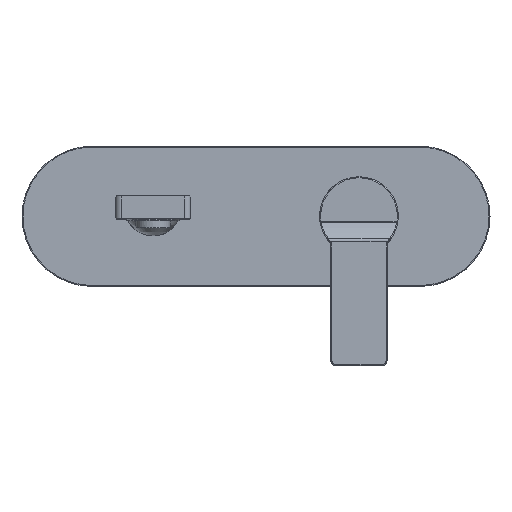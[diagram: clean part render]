
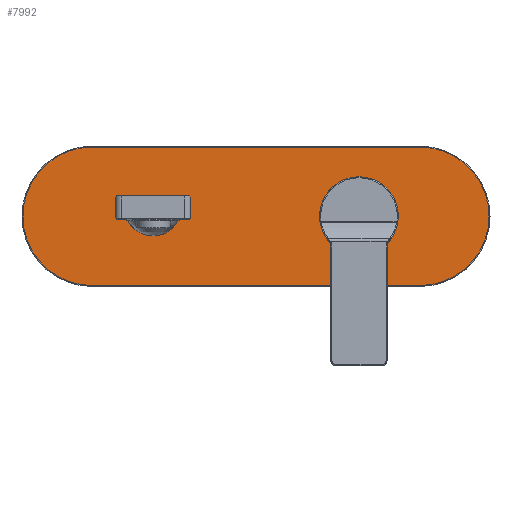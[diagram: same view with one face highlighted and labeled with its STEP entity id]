
A CAD part, top view. The second image highlights one B-rep face of the part: STEP entity #7992.
In plain terms, the highlighted planar face has unit normal (0, 0, 1).
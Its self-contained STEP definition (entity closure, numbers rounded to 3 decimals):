
#879=CARTESIAN_POINT('',(-144.5,0.,43.7));
#880=DIRECTION('',(0.,0.,1.));
#881=DIRECTION('',(0.,1.,0.));
#882=AXIS2_PLACEMENT_3D('',#879,#880,#881);
#884=DIRECTION('',(-1.,0.,0.));
#885=VECTOR('',#884,175.);
#886=CARTESIAN_POINT('',(30.5,37.,43.7));
#887=LINE('',#886,#885);
#888=CARTESIAN_POINT('',(30.5,0.,43.7));
#889=DIRECTION('',(0.,0.,1.));
#890=DIRECTION('',(0.,-1.,0.));
#891=AXIS2_PLACEMENT_3D('',#888,#889,#890);
#893=DIRECTION('',(1.,0.,0.));
#894=VECTOR('',#893,175.);
#895=CARTESIAN_POINT('',(-144.5,-37.,43.7));
#896=LINE('',#895,#894);
#897=CARTESIAN_POINT('',(-2.,0.,43.7));
#898=DIRECTION('',(0.,0.,1.));
#899=DIRECTION('',(1.,0.,0.));
#900=AXIS2_PLACEMENT_3D('',#897,#898,#899);
#902=CARTESIAN_POINT('',(-2.,0.,43.7));
#903=DIRECTION('',(0.,0.,1.));
#904=DIRECTION('',(-1.,0.,0.));
#905=AXIS2_PLACEMENT_3D('',#902,#903,#904);
#907=DIRECTION('',(0.,-1.,0.));
#908=VECTOR('',#907,9.);
#909=CARTESIAN_POINT('',(-92.,9.,43.7));
#910=LINE('',#909,#908);
#911=CARTESIAN_POINT('',(-112.,4.5,43.7));
#912=DIRECTION('',(0.,0.,-1.));
#913=DIRECTION('',(0.956,0.293,0.));
#914=AXIS2_PLACEMENT_3D('',#911,#912,#913);
#916=DIRECTION('',(1.,0.,0.));
#917=VECTOR('',#916,39.205);
#918=CARTESIAN_POINT('',(-131.602,10.5,43.7));
#919=LINE('',#918,#917);
#920=CARTESIAN_POINT('',(-112.,4.5,43.7));
#921=DIRECTION('',(0.,0.,-1.));
#922=DIRECTION('',(-0.976,0.22,0.));
#923=AXIS2_PLACEMENT_3D('',#920,#921,#922);
#925=DIRECTION('',(0.,1.,0.));
#926=VECTOR('',#925,9.);
#927=CARTESIAN_POINT('',(-132.,0.,43.7));
#928=LINE('',#927,#926);
#929=CARTESIAN_POINT('',(-112.,4.5,43.7));
#930=DIRECTION('',(0.,0.,-1.));
#931=DIRECTION('',(-0.956,-0.293,0.));
#932=AXIS2_PLACEMENT_3D('',#929,#930,#931);
#934=DIRECTION('',(-1.,0.,0.));
#935=VECTOR('',#934,4.922);
#936=CARTESIAN_POINT('',(-126.68,-1.5,43.7));
#937=LINE('',#936,#935);
#938=DIRECTION('',(-0.819,0.574,0.));
#939=VECTOR('',#938,1.715);
#940=CARTESIAN_POINT('',(-125.275,-2.484,43.7));
#941=LINE('',#940,#939);
#942=CARTESIAN_POINT('',(-125.275,-2.484,43.7));
#943=CARTESIAN_POINT('',(-124.432,-4.086,43.7));
#944=CARTESIAN_POINT('',(-122.159,-6.982,43.7));
#945=CARTESIAN_POINT('',(-117.432,-9.837,43.7));
#946=CARTESIAN_POINT('',(-113.811,-10.5,43.7));
#947=CARTESIAN_POINT('',(-112.,-10.5,43.7));
#949=CARTESIAN_POINT('',(-112.,-10.5,43.7));
#950=CARTESIAN_POINT('',(-110.189,-10.5,43.7));
#951=CARTESIAN_POINT('',(-106.568,-9.837,43.7));
#952=CARTESIAN_POINT('',(-101.841,-6.982,43.7));
#953=CARTESIAN_POINT('',(-99.568,-4.086,43.7));
#954=CARTESIAN_POINT('',(-98.725,-2.484,43.7));
#956=DIRECTION('',(-0.819,-0.574,0.));
#957=VECTOR('',#956,1.715);
#958=CARTESIAN_POINT('',(-97.32,-1.5,43.7));
#959=LINE('',#958,#957);
#960=DIRECTION('',(-1.,0.,0.));
#961=VECTOR('',#960,4.922);
#962=CARTESIAN_POINT('',(-92.398,-1.5,43.7));
#963=LINE('',#962,#961);
#964=CARTESIAN_POINT('',(-112.,4.5,43.7));
#965=DIRECTION('',(0.,0.,-1.));
#966=DIRECTION('',(0.976,-0.22,0.));
#967=AXIS2_PLACEMENT_3D('',#964,#965,#966);
#6364=CARTESIAN_POINT('',(-144.5,37.,43.7));
#6365=CARTESIAN_POINT('',(-144.5,-37.,43.7));
#6366=VERTEX_POINT('',#6364);
#6367=VERTEX_POINT('',#6365);
#6372=CARTESIAN_POINT('',(30.5,-37.,43.7));
#6373=VERTEX_POINT('',#6372);
#6376=CARTESIAN_POINT('',(30.5,37.,43.7));
#6377=VERTEX_POINT('',#6376);
#6388=CARTESIAN_POINT('',(18.25,0.,43.7));
#6389=CARTESIAN_POINT('',(-22.25,0.,43.7));
#6390=VERTEX_POINT('',#6388);
#6391=VERTEX_POINT('',#6389);
#6961=CARTESIAN_POINT('',(-92.,9.,43.7));
#6962=CARTESIAN_POINT('',(-92.,0.,43.7));
#6963=VERTEX_POINT('',#6961);
#6964=VERTEX_POINT('',#6962);
#6965=CARTESIAN_POINT('',(-92.398,-1.5,43.7));
#6966=CARTESIAN_POINT('',(-97.32,-1.5,43.7));
#6967=VERTEX_POINT('',#6965);
#6968=VERTEX_POINT('',#6966);
#6969=CARTESIAN_POINT('',(-126.68,-1.5,43.7));
#6970=CARTESIAN_POINT('',(-131.602,-1.5,43.7));
#6971=VERTEX_POINT('',#6969);
#6972=VERTEX_POINT('',#6970);
#6973=CARTESIAN_POINT('',(-132.,0.,43.7));
#6974=CARTESIAN_POINT('',(-132.,9.,43.7));
#6975=VERTEX_POINT('',#6973);
#6976=VERTEX_POINT('',#6974);
#6977=CARTESIAN_POINT('',(-131.602,10.5,43.7));
#6978=CARTESIAN_POINT('',(-92.398,10.5,43.7));
#6979=VERTEX_POINT('',#6977);
#6980=VERTEX_POINT('',#6978);
#6981=VERTEX_POINT('',#949);
#6982=VERTEX_POINT('',#954);
#6983=VERTEX_POINT('',#942);
#7946=CARTESIAN_POINT('',(-57.,0.,43.7));
#7947=DIRECTION('',(0.,0.,1.));
#7948=DIRECTION('',(1.,0.,0.));
#7949=AXIS2_PLACEMENT_3D('',#7946,#7947,#7948);
#7950=PLANE('',#7949);
#7952=ORIENTED_EDGE('',*,*,#7951,.F.);
#7954=ORIENTED_EDGE('',*,*,#7953,.F.);
#7956=ORIENTED_EDGE('',*,*,#7955,.F.);
#7958=ORIENTED_EDGE('',*,*,#7957,.F.);
#7959=EDGE_LOOP('',(#7952,#7954,#7956,#7958));
#7960=FACE_OUTER_BOUND('',#7959,.F.);
#7962=ORIENTED_EDGE('',*,*,#7961,.T.);
#7964=ORIENTED_EDGE('',*,*,#7963,.T.);
#7965=EDGE_LOOP('',(#7962,#7964));
#7966=FACE_BOUND('',#7965,.F.);
#7968=ORIENTED_EDGE('',*,*,#7967,.F.);
#7970=ORIENTED_EDGE('',*,*,#7969,.F.);
#7972=ORIENTED_EDGE('',*,*,#7971,.F.);
#7974=ORIENTED_EDGE('',*,*,#7973,.F.);
#7976=ORIENTED_EDGE('',*,*,#7975,.F.);
#7978=ORIENTED_EDGE('',*,*,#7977,.F.);
#7979=ORIENTED_EDGE('',*,*,#7909,.F.);
#7981=ORIENTED_EDGE('',*,*,#7980,.F.);
#7983=ORIENTED_EDGE('',*,*,#7982,.T.);
#7985=ORIENTED_EDGE('',*,*,#7984,.T.);
#7986=ORIENTED_EDGE('',*,*,#7936,.F.);
#7987=ORIENTED_EDGE('',*,*,#7921,.F.);
#7989=ORIENTED_EDGE('',*,*,#7988,.F.);
#7990=EDGE_LOOP('',(#7968,#7970,#7972,#7974,#7976,#7978,#7979,#7981,#7983,#7985,
#7986,#7987,#7989));
#7991=FACE_BOUND('',#7990,.F.);
#7992=ADVANCED_FACE('',(#7960,#7966,#7991),#7950,.T.);
#883=CIRCLE('',#882,37.);
#892=CIRCLE('',#891,37.);
#901=CIRCLE('',#900,20.25);
#906=CIRCLE('',#905,20.25);
#915=CIRCLE('',#914,20.5);
#924=CIRCLE('',#923,20.5);
#933=CIRCLE('',#932,20.5);
#948=B_SPLINE_CURVE_WITH_KNOTS('',3,(#942,#943,#944,#945,#946,#947),
.UNSPECIFIED.,.F.,.F.,(4,1,1,4),(0.,0.333,0.667,1.),
.UNSPECIFIED.);
#955=B_SPLINE_CURVE_WITH_KNOTS('',3,(#949,#950,#951,#952,#953,#954),
.UNSPECIFIED.,.F.,.F.,(4,1,1,4),(0.,0.333,0.667,1.),
.UNSPECIFIED.);
#968=CIRCLE('',#967,20.5);
#7909=EDGE_CURVE('',#6971,#6972,#937,.T.);
#7921=EDGE_CURVE('',#6967,#6968,#963,.T.);
#7936=EDGE_CURVE('',#6968,#6982,#959,.T.);
#7951=EDGE_CURVE('',#6366,#6367,#883,.T.);
#7953=EDGE_CURVE('',#6377,#6366,#887,.T.);
#7955=EDGE_CURVE('',#6373,#6377,#892,.T.);
#7957=EDGE_CURVE('',#6367,#6373,#896,.T.);
#7961=EDGE_CURVE('',#6390,#6391,#901,.T.);
#7963=EDGE_CURVE('',#6391,#6390,#906,.T.);
#7967=EDGE_CURVE('',#6963,#6964,#910,.T.);
#7969=EDGE_CURVE('',#6980,#6963,#915,.T.);
#7971=EDGE_CURVE('',#6979,#6980,#919,.T.);
#7973=EDGE_CURVE('',#6976,#6979,#924,.T.);
#7975=EDGE_CURVE('',#6975,#6976,#928,.T.);
#7977=EDGE_CURVE('',#6972,#6975,#933,.T.);
#7980=EDGE_CURVE('',#6983,#6971,#941,.T.);
#7982=EDGE_CURVE('',#6983,#6981,#948,.T.);
#7984=EDGE_CURVE('',#6981,#6982,#955,.T.);
#7988=EDGE_CURVE('',#6964,#6967,#968,.T.);
